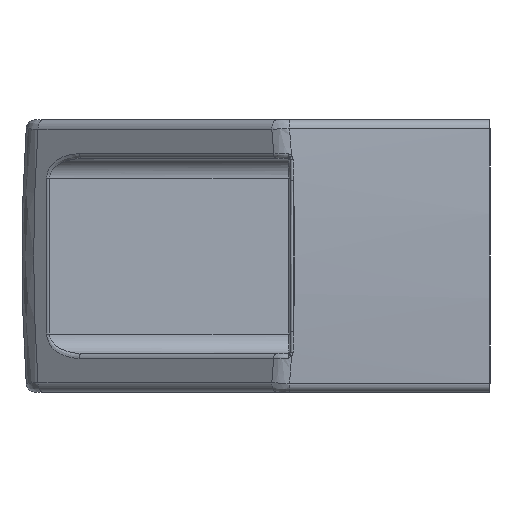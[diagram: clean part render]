
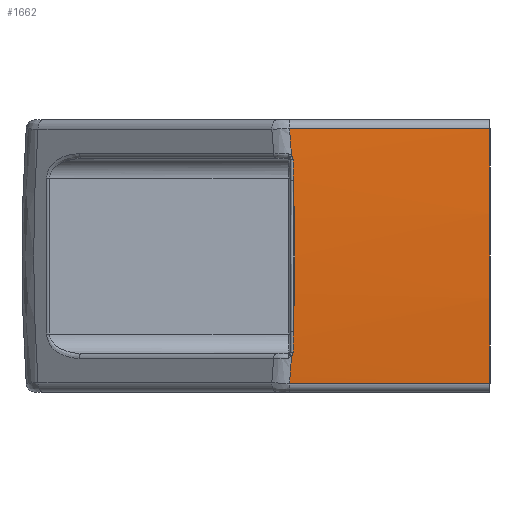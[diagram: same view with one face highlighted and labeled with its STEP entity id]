
A CAD part, left-side view. The second image highlights one B-rep face of the part: STEP entity #1662.
In plain terms, the highlighted cylindrical face has radius 196.25 mm (diameter 392.5 mm), a partial arc.
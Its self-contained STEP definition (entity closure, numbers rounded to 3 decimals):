
#25=ELLIPSE('',#1816,323.892,196.25);
#27=ELLIPSE('',#1818,323.892,196.25);
#32=ELLIPSE('',#1833,323.892,196.25);
#71=LINE('',#3446,#145);
#82=LINE('',#3587,#156);
#145=VECTOR('',#2175,20.572);
#156=VECTOR('',#2216,20.572);
#225=B_SPLINE_CURVE_WITH_KNOTS('',3,(#3182,#3183,#3184,#3185,#3186),
 .UNSPECIFIED.,.F.,.F.,(4,1,4),(0.,0.019,0.044),
 .UNSPECIFIED.);
#231=B_SPLINE_CURVE_WITH_KNOTS('',3,(#3306,#3307,#3308,#3309,#3310),
 .UNSPECIFIED.,.F.,.F.,(4,1,4),(0.,0.019,0.044),
 .UNSPECIFIED.);
#311=CYLINDRICAL_SURFACE('',#1834,196.25);
#413=FACE_OUTER_BOUND('',#532,.T.);
#532=EDGE_LOOP('',(#1393,#1394,#1395,#1396,#1397,#1398,#1399,#1400,#1401,
#1402));
#628=CIRCLE('',#1805,196.25);
#631=CIRCLE('',#1809,196.25);
#642=CIRCLE('',#1835,196.25);
#748=VERTEX_POINT('',#3133);
#751=VERTEX_POINT('',#3174);
#753=VERTEX_POINT('',#3207);
#756=VERTEX_POINT('',#3215);
#757=VERTEX_POINT('',#3225);
#759=VERTEX_POINT('',#3260);
#770=VERTEX_POINT('',#3411);
#774=VERTEX_POINT('',#3443);
#775=VERTEX_POINT('',#3445);
#790=VERTEX_POINT('',#3585);
#948=EDGE_CURVE('',#748,#751,#225,.T.);
#954=EDGE_CURVE('',#751,#756,#628,.T.);
#957=EDGE_CURVE('',#753,#757,#631,.T.);
#962=EDGE_CURVE('',#757,#759,#231,.T.);
#974=EDGE_CURVE('',#759,#770,#25,.T.);
#978=EDGE_CURVE('',#756,#753,#27,.T.);
#980=EDGE_CURVE('',#774,#775,#71,.T.);
#1006=EDGE_CURVE('',#775,#748,#32,.T.);
#1007=EDGE_CURVE('',#790,#774,#642,.T.);
#1008=EDGE_CURVE('',#770,#790,#82,.T.);
#1393=ORIENTED_EDGE('',*,*,#948,.F.);
#1394=ORIENTED_EDGE('',*,*,#1006,.F.);
#1395=ORIENTED_EDGE('',*,*,#980,.F.);
#1396=ORIENTED_EDGE('',*,*,#1007,.F.);
#1397=ORIENTED_EDGE('',*,*,#1008,.F.);
#1398=ORIENTED_EDGE('',*,*,#974,.F.);
#1399=ORIENTED_EDGE('',*,*,#962,.F.);
#1400=ORIENTED_EDGE('',*,*,#957,.F.);
#1401=ORIENTED_EDGE('',*,*,#978,.F.);
#1402=ORIENTED_EDGE('',*,*,#954,.F.);
#1662=ADVANCED_FACE('',(#413),#311,.T.);
#1805=AXIS2_PLACEMENT_3D('',#3223,#2140,#2141);
#1809=AXIS2_PLACEMENT_3D('',#3229,#2148,#2149);
#1816=AXIS2_PLACEMENT_3D('',#3412,#2165,#2166);
#1818=AXIS2_PLACEMENT_3D('',#3440,#2169,#2170);
#1833=AXIS2_PLACEMENT_3D('',#3583,#2210,#2211);
#1834=AXIS2_PLACEMENT_3D('',#3584,#2212,#2213);
#1835=AXIS2_PLACEMENT_3D('',#3586,#2214,#2215);
#2140=DIRECTION('center_axis',(0.,1.,0.));
#2141=DIRECTION('ref_axis',(-0.999,0.,-0.05));
#2148=DIRECTION('center_axis',(0.,1.,0.));
#2149=DIRECTION('ref_axis',(-0.999,0.,0.051));
#2165=DIRECTION('center_axis',(-0.796,0.606,0.));
#2166=DIRECTION('ref_axis',(-0.606,-0.796,0.));
#2169=DIRECTION('center_axis',(-0.796,0.606,0.));
#2170=DIRECTION('ref_axis',(-0.606,-0.796,0.));
#2175=DIRECTION('',(0.,1.,0.));
#2210=DIRECTION('center_axis',(-0.796,0.606,0.));
#2211=DIRECTION('ref_axis',(-0.606,-0.796,0.));
#2212=DIRECTION('center_axis',(0.,1.,0.));
#2213=DIRECTION('ref_axis',(0.997,0.,-0.071));
#2214=DIRECTION('center_axis',(0.,-1.,0.));
#2215=DIRECTION('ref_axis',(0.997,0.,-0.071));
#2216=DIRECTION('',(0.,-1.,0.));
#3133=CARTESIAN_POINT('',(-86.481,20.353,-10.267));
#3174=CARTESIAN_POINT('',(-86.502,20.2,-9.863));
#3182=CARTESIAN_POINT('Ctrl Pts',(-86.481,20.353,-10.267));
#3183=CARTESIAN_POINT('Ctrl Pts',(-86.484,20.314,-10.217));
#3184=CARTESIAN_POINT('Ctrl Pts',(-86.49,20.234,-10.093));
#3185=CARTESIAN_POINT('Ctrl Pts',(-86.498,20.2,-9.947));
#3186=CARTESIAN_POINT('Ctrl Pts',(-86.502,20.2,-9.863));
#3207=CARTESIAN_POINT('',(-86.598,20.2,7.731));
#3215=CARTESIAN_POINT('',(-86.598,20.2,-7.731));
#3223=CARTESIAN_POINT('Origin',(109.5,20.2,0.));
#3225=CARTESIAN_POINT('',(-86.502,20.2,9.863));
#3229=CARTESIAN_POINT('Origin',(109.5,20.2,0.));
#3260=CARTESIAN_POINT('',(-86.481,20.353,10.267));
#3306=CARTESIAN_POINT('Ctrl Pts',(-86.502,20.2,9.863));
#3307=CARTESIAN_POINT('Ctrl Pts',(-86.499,20.2,9.926));
#3308=CARTESIAN_POINT('Ctrl Pts',(-86.491,20.225,10.072));
#3309=CARTESIAN_POINT('Ctrl Pts',(-86.485,20.3,10.201));
#3310=CARTESIAN_POINT('Ctrl Pts',(-86.481,20.353,10.267));
#3411=CARTESIAN_POINT('',(-86.315,20.572,13.067));
#3412=CARTESIAN_POINT('Origin',(109.5,277.667,0.));
#3440=CARTESIAN_POINT('Origin',(109.5,277.667,0.));
#3443=CARTESIAN_POINT('',(-86.315,0.,-13.067));
#3445=CARTESIAN_POINT('',(-86.315,20.572,-13.067));
#3446=CARTESIAN_POINT('',(-86.315,0.,-13.067));
#3583=CARTESIAN_POINT('Origin',(109.5,277.667,0.));
#3584=CARTESIAN_POINT('Origin',(109.5,0.,0.));
#3585=CARTESIAN_POINT('',(-86.315,0.,13.067));
#3586=CARTESIAN_POINT('Origin',(109.5,0.,
0.));
#3587=CARTESIAN_POINT('',(-86.315,0.,13.067));
